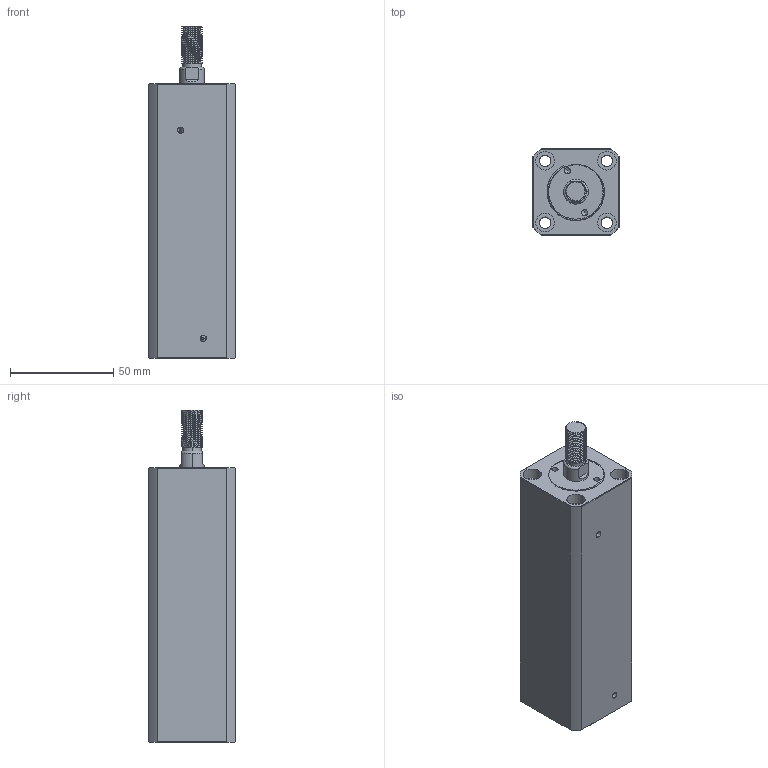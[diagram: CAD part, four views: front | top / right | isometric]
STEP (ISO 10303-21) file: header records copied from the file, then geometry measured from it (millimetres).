
FILE_DESCRIPTION (( 'STEP AP214' ), '1' );
FILE_NAME ('chtb-sdmb20x90w_asm.STEP', '2018-05-18T08:38:19', ( 'Windows' ), ( 'Microsoft' ), 'SwSTEP 2.0', 'SolidWorks 2015', '' );
FILE_SCHEMA (( 'AUTOMOTIVE_DESIGN' ));
Length unit declared in the file: millimetre
Products named in the file (4): QG_3; CHTB-SDMB20X90WHSG; CHTB-SDMB20X90NBT; chtb-sdmb20x90w_asm
Assembly tree (3 placements, depth 2):
  chtb-sdmb20x90w_asm
    CHTB-SDMB20X90NBT
    CHTB-SDMB20X90WHSG
    QG_3
Bounding box: 42 x 42 x 161 mm (x, y, z)
Volume: 197801.6 mm3; surface area: 55313.8 mm2
Topology: 3 solids, 3 shells, 243 faces, 660 edges, 439 vertices
Faces by surface type: cylinder 143, plane 47, torus 25, bspline 23, cone 5
Entity records: 14768 total; most frequent: CARTESIAN_POINT 8984, ORIENTED_EDGE 1312, DIRECTION 1058, EDGE_CURVE 656, VERTEX_POINT 439, AXIS2_PLACEMENT_3D 434, EDGE_LOOP 281, ADVANCED_FACE 243
